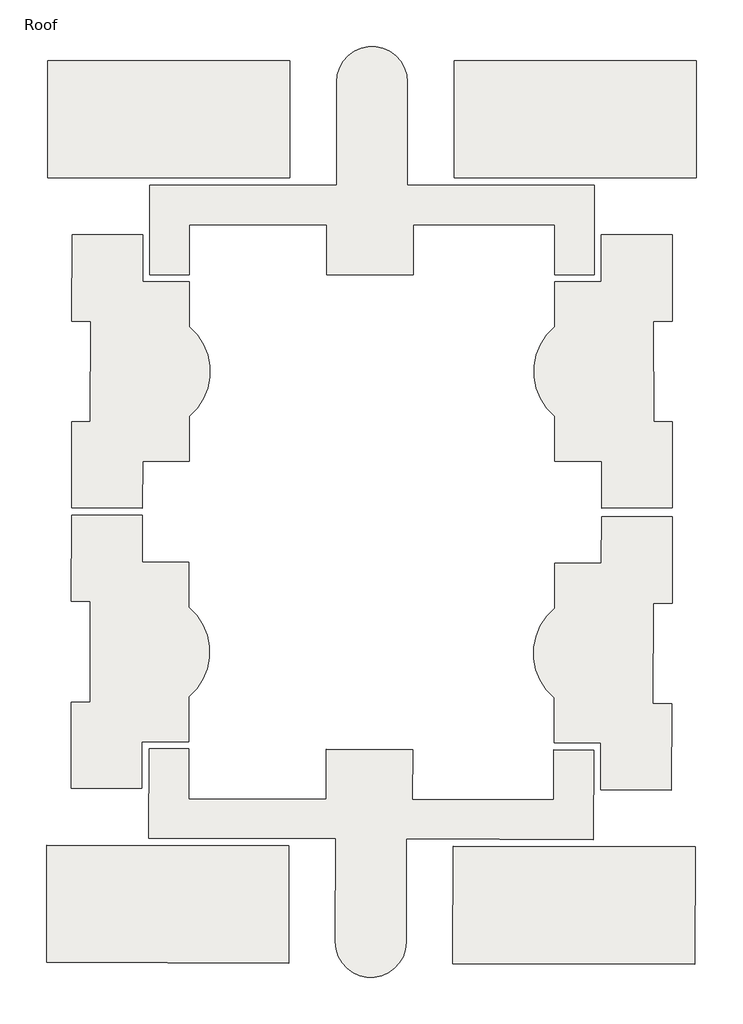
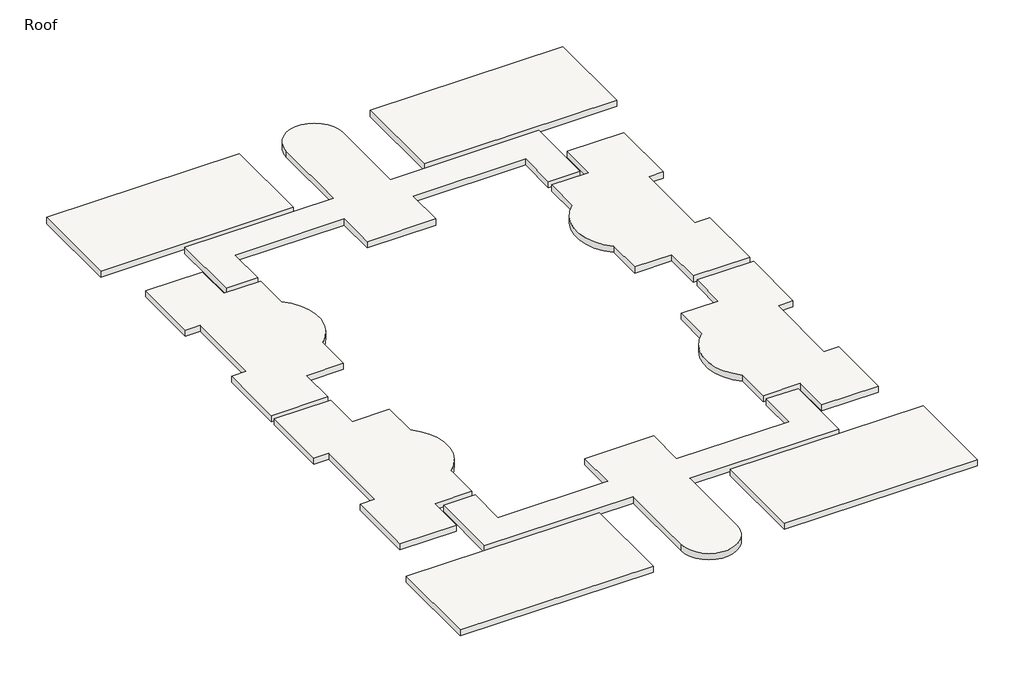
# One storey: 10 roofs.
"""IFC4 building model written with IfcOpenShell, lengths in millimetres."""

from ifc_helpers import new_model, si_unit, point, frame, frame_2d, origin, place, context, project, spatial, polyline, circle_curve, trimmed, segment, composite_curve, outline, extrude, element, save

model = new_model("IFC4")

# Units and contexts
model_context = context("Model", 3, world=origin())
ifc_project = project(units=[si_unit("LENGTHUNIT", "METRE", prefix="MILLI")], contexts=[model_context])

# Site, building, storey
site = spatial("IfcSite", under=ifc_project)
building = spatial("IfcBuilding", under=site)
storey = spatial("IfcBuildingStorey", under=building, Name="Roof", Elevation=12192.0)

# Roofs
placement = place(None, origin())
element("IfcRoof", 1, ObjectType="Generic - 400mm", at=placement, inside=storey, context=model_context, shape_type="SweptSolid", body=[
    extrude(outline(polyline([(-14935.3416203, 2406.1188386), (-3093.3416203, 2406.1188386), (-3093.3416203, -3339.8811614), (-14935.3416203, -3339.8811614), (-14935.3416203, 2406.1188386)])), frame((0.0, 0.0, 12192.0), z_axis=(0.0, 0.0, 1.0), x_axis=(1.0, 0.0, 0.0)), (0.0, 0.0, 1.0), 400.0),
])
element("IfcRoof", 2, ObjectType="Generic - 400mm", at=placement, inside=storey, context=model_context, shape_type="SweptSolid", body=[
    extrude(outline(composite_curve([segment(polyline([(-20687.0916203, -3689.8811614), (-20687.0916203, 1362.1188386)]), True, "CONTINUOUS"), segment(trimmed(circle_curve(frame_2d((-18957.0916203, 1362.1188386)), 1730.0), [point((-20687.0916203, 1362.1188386))], [point((-17227.0916203, 1362.1188386))], False, "CARTESIAN"), True, "CONTINUOUS"), segment(polyline([(-17227.0916203, 1362.1188386), (-17227.0916203, -3689.8811614), (-8083.0916203, -3689.8811614), (-8083.0916203, -8064.2811614), (-10019.0916203, -8064.2811614), (-10019.0916203, -5625.8811614), (-16940.0916203, -5625.8811614), (-16940.0916203, -8064.2811614), (-21162.0916203, -8064.2811614), (-21162.0916203, -5625.8811614), (-27895.0916203, -5625.8811614), (-27895.0916203, -8064.2811614), (-29831.0916203, -8064.2811614), (-29831.0916203, -3689.8811614), (-20687.0916203, -3689.8811614)]), True, "CONTINUOUS")], self_intersect=False)), frame((0.0, 0.0, 12192.0), z_axis=(0.0, 0.0, 1.0), x_axis=(1.0, 0.0, 0.0)), (0.0, 0.0, 1.0), 400.0),
])
element("IfcRoof", 3, ObjectType="Generic - 400mm", at=placement, inside=storey, context=model_context, shape_type="SweptSolid", body=[
    extrude(outline(composite_curve([segment(polyline([(-4262.662547, -15266.7589083), (-4256.5515039, -19488.7544857), (-7723.7978719, -19493.7730821), (-7727.1066934, -17207.7754767), (-10005.8543064, -17211.0738043), (-10009.0494686, -15003.6010958)]), True, "CONTINUOUS"), segment(trimmed(circle_curve(frame_2d((-8159.0279702, -12805.5225132)), 2873.0), [point((-10009.0494686, -15003.6010958))], [point((-10015.4048332, -10612.8086826))], False, "CARTESIAN"), True, "CONTINUOUS"), segment(polyline([(-10015.4048332, -10612.8086826), (-10018.5829924, -8417.0830163), (-7732.585387, -8413.7741948), (-7735.8942085, -6127.7765894), (-4275.8978329, -6122.7684869), (-4269.7867899, -10344.7640643), (-5184.185832, -10346.0875929), (-5177.0615891, -15268.0824369), (-4262.662547, -15266.7589083)]), True, "CONTINUOUS")], self_intersect=False)), frame((0.0, 0.0, 12192.0), z_axis=(0.0, 0.0, 1.0), x_axis=(1.0, 0.0, 0.0)), (0.0, 0.0, 1.0), 400.0),
])
element("IfcRoof", 4, ObjectType="Generic - 400mm", at=placement, inside=storey, context=model_context, shape_type="SweptSolid", body=[
    extrude(outline(polyline([(-34820.8416203, 2406.1188386), (-22978.8416203, 2406.1188386), (-22978.8416203, -3339.8811614), (-34820.8416203, -3339.8811614), (-34820.8416203, 2406.1188386)])), frame((0.0, 0.0, 12192.0), z_axis=(0.0, 0.0, 1.0), x_axis=(1.0, 0.0, 0.0)), (0.0, 0.0, 1.0), 400.0),
])
element("IfcRoof", 5, ObjectType="Generic - 400mm", at=placement, inside=storey, context=model_context, shape_type="SweptSolid", body=[
    extrude(outline(composite_curve([segment(polyline([(-33657.6317367, -19488.7544857), (-33651.5206937, -15266.7589083), (-32737.1216515, -15268.0824369), (-32729.9974086, -10346.0875929), (-33644.3964507, -10344.7640643), (-33638.2854077, -6122.7684869), (-30178.2890322, -6127.7765894), (-30181.5978537, -8413.7741948), (-27895.6002483, -8417.0830163), (-27898.7784075, -10612.8086826)]), True, "CONTINUOUS"), segment(trimmed(circle_curve(frame_2d((-29755.1552705, -12805.5225132)), 2873.0), [point((-27898.7784075, -10612.8086826))], [point((-27905.1337721, -15003.6010958))], False, "CARTESIAN"), True, "CONTINUOUS"), segment(polyline([(-27905.1337721, -15003.6010958), (-27908.3289343, -17211.0738043), (-30187.0765472, -17207.7754767), (-30190.3853687, -19493.7730821), (-33657.6317367, -19488.7544857)]), True, "CONTINUOUS")], self_intersect=False)), frame((0.0, 0.0, 12192.0), z_axis=(0.0, 0.0, 1.0), x_axis=(1.0, 0.0, 0.0)), (0.0, 0.0, 1.0), 400.0),
])
element("IfcRoof", 6, ObjectType="Generic - 400mm", at=placement, inside=storey, context=model_context, shape_type="SweptSolid", body=[
    extrude(outline(polyline([(-3157.3587474, -41822.0148566), (-14999.3091283, -41787.7339965), (-14982.6752977, -36041.7580728), (-3140.7249168, -36076.0389329), (-3157.3587474, -41822.0148566)])), frame((0.0, 0.0, 12192.0), z_axis=(0.0, 0.0, 1.0), x_axis=(1.0, 0.0, 0.0)), (0.0, 0.0, 1.0), 400.0),
])
element("IfcRoof", 7, ObjectType="Generic - 400mm", at=placement, inside=storey, context=model_context, shape_type="SweptSolid", body=[
    extrude(outline(composite_curve([segment(polyline([(-4257.1812973, -19923.8659512), (-4275.5143752, -24145.8261474), (-5189.9057545, -24141.8555727), (-5211.2784236, -29063.8091695), (-4296.8870443, -29067.7797442), (-4315.2201221, -33289.7399404), (-7775.1875022, -33274.7156749), (-7765.2610655, -30988.7372266), (-10051.2395137, -30978.8107899), (-10041.7050628, -28783.1035241)]), True, "CONTINUOUS"), segment(trimmed(circle_curve(frame_2d((-8178.988392, -26595.7728211)), 2873.0), [point((-10041.7050628, -28783.1035241))], [point((-10022.6390223, -24392.3479066))], False, "CARTESIAN"), True, "CONTINUOUS"), segment(polyline([(-10022.6390223, -24392.3479066), (-10013.0535624, -22184.8936972), (-7734.3250458, -22194.7886524), (-7724.3986091, -19908.8102042), (-4257.1812973, -19923.8659512)]), True, "CONTINUOUS")], self_intersect=False)), frame((0.0, 0.0, 12192.0), z_axis=(0.0, 0.0, 1.0), x_axis=(1.0, 0.0, 0.0)), (0.0, 0.0, 1.0), 400.0),
])
element("IfcRoof", 8, ObjectType="Generic - 400mm", at=placement, inside=storey, context=model_context, shape_type="SweptSolid", body=[
    extrude(outline(polyline([(-23042.7754252, -41764.4492391), (-34884.7258061, -41730.168379), (-34868.0919755, -35984.1924553), (-23026.1415946, -36018.4733154), (-23042.7754252, -41764.4492391)])), frame((0.0, 0.0, 12192.0), z_axis=(0.0, 0.0, 1.0), x_axis=(1.0, 0.0, 0.0)), (0.0, 0.0, 1.0), 400.0),
])
element("IfcRoof", 9, ObjectType="Generic - 400mm", at=placement, inside=storey, context=model_context, shape_type="SweptSolid", body=[
    extrude(outline(composite_curve([segment(polyline([(-33664.2493797, -24060.7496964), (-33658.1383367, -19838.7541191), (-30190.8919687, -19843.7727154), (-30194.2007902, -22129.7703208), (-27915.4531772, -22133.0686484), (-27918.6483394, -24340.5413569)]), True, "CONTINUOUS"), segment(trimmed(circle_curve(frame_2d((-29775.0252024, -26533.2551875)), 2873.0), [point((-27918.6483394, -24340.5413569))], [point((-27925.0037041, -28731.3337701))], False, "CARTESIAN"), True, "CONTINUOUS"), segment(polyline([(-27925.0037041, -28731.3337701), (-27928.1818632, -30927.0594365), (-30214.1794686, -30923.750615), (-30217.4882901, -33209.7482204), (-33677.4846656, -33204.7401178), (-33671.3736226, -28982.7445405), (-32756.9745805, -28984.0680691), (-32749.8503375, -24062.073225), (-33664.2493797, -24060.7496964)]), True, "CONTINUOUS")], self_intersect=False)), frame((0.0, 0.0, 12192.0), z_axis=(0.0, 0.0, 1.0), x_axis=(1.0, 0.0, 0.0)), (0.0, 0.0, 1.0), 400.0),
])
element("IfcRoof", 10, ObjectType="Generic - 400mm", at=placement, inside=storey, context=model_context, shape_type="SweptSolid", body=[
    extrude(outline(composite_curve([segment(polyline([(-20748.0128004, -40727.087895), (-20733.3879984, -35675.1090634), (-29877.3496842, -35648.6385192), (-29864.6864352, -31274.2568483), (-27928.6945472, -31279.8612855), (-27935.753359, -33718.2510684), (-21202.7815709, -33737.7421198), (-21195.7227592, -31299.3523369), (-16973.7404497, -31311.5744101), (-16980.7992615, -33749.964193), (-10059.8282612, -33769.9994769), (-10052.7694494, -31331.6096941), (-8116.7775614, -31337.2141313), (-8129.4408104, -35711.5958021), (-17273.4024962, -35685.1252579), (-17288.0272981, -40737.1040895)]), True, "CONTINUOUS"), segment(trimmed(circle_curve(frame_2d((-19018.0200493, -40732.0959922)), 1730.0), [point((-17288.0272981, -40737.1040895))], [point((-20748.0128004, -40727.087895))], False, "CARTESIAN"), True, "CONTINUOUS")], self_intersect=False)), frame((0.0, 0.0, 12192.0), z_axis=(0.0, 0.0, 1.0), x_axis=(1.0, 0.0, 0.0)), (0.0, 0.0, 1.0), 400.0),
])

save(model, "model.ifc")
